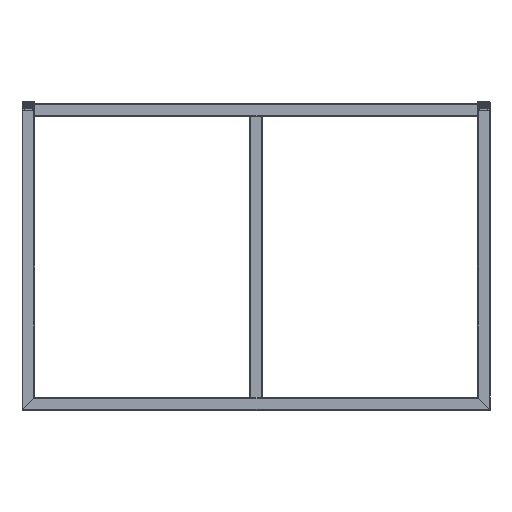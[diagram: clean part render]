
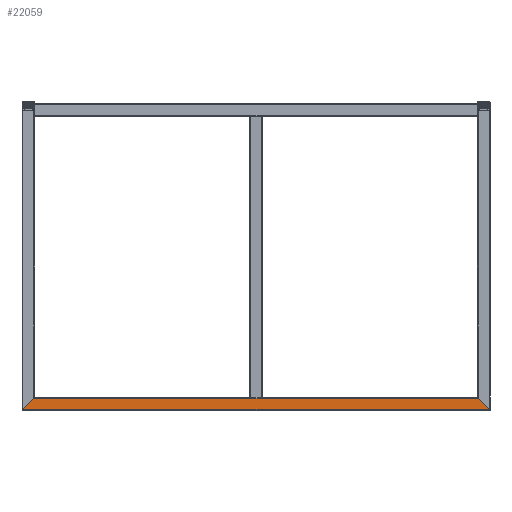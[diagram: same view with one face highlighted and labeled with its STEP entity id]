
A CAD part, left-side view. The second image highlights one B-rep face of the part: STEP entity #22059.
In plain terms, the highlighted planar face has unit normal (-1, 0, 0).
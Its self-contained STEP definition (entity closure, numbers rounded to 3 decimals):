
#2507=FACE_OUTER_BOUND('',#3829,.T.);
#3829=EDGE_LOOP('',(#15117,#15118,#15119,#15120));
#5484=LINE('',#34934,#7572);
#5501=LINE('',#34976,#7589);
#5505=LINE('',#34983,#7593);
#5508=LINE('',#34990,#7596);
#7572=VECTOR('',#27809,36.77);
#7589=VECTOR('',#27846,36.77);
#7593=VECTOR('',#27854,896.);
#7596=VECTOR('',#27865,844.);
#9682=VERTEX_POINT('',#34920);
#9688=VERTEX_POINT('',#34932);
#9701=VERTEX_POINT('',#34972);
#9703=VERTEX_POINT('',#34975);
#11816=EDGE_CURVE('',#9682,#9688,#5484,.T.);
#11836=EDGE_CURVE('',#9703,#9701,#5501,.T.);
#11841=EDGE_CURVE('',#9682,#9701,#5505,.T.);
#11844=EDGE_CURVE('',#9688,#9703,#5508,.T.);
#15117=ORIENTED_EDGE('',*,*,#11844,.T.);
#15118=ORIENTED_EDGE('',*,*,#11836,.T.);
#15119=ORIENTED_EDGE('',*,*,#11841,.F.);
#15120=ORIENTED_EDGE('',*,*,#11816,.T.);
#21282=PLANE('',#25195);
#22059=ADVANCED_FACE('',(#2507),#21282,.T.);
#25195=AXIS2_PLACEMENT_3D('',#34989,#27863,#27864);
#27809=DIRECTION('',(0.,0.707,0.707));
#27846=DIRECTION('',(0.,0.707,-0.707));
#27854=DIRECTION('',(0.,1.,0.));
#27863=DIRECTION('center_axis',(-1.,0.,0.));
#27864=DIRECTION('ref_axis',(0.,0.,
-1.));
#27865=DIRECTION('',(0.,1.,0.));
#34920=CARTESIAN_POINT('',(-10.,-1083.,-358.));
#34932=CARTESIAN_POINT('',(-10.,-1057.,-332.));
#34934=CARTESIAN_POINT('',(-10.,-1083.,-358.));
#34972=CARTESIAN_POINT('',(-10.,13.,-358.));
#34975=CARTESIAN_POINT('',(-10.,-13.,-332.));
#34976=CARTESIAN_POINT('',(-10.,-13.,-332.));
#34983=CARTESIAN_POINT('',(-10.,-883.,-358.));
#34989=CARTESIAN_POINT('Origin',(-10.,-435.,-332.));
#34990=CARTESIAN_POINT('',(-10.,-857.,-332.));
